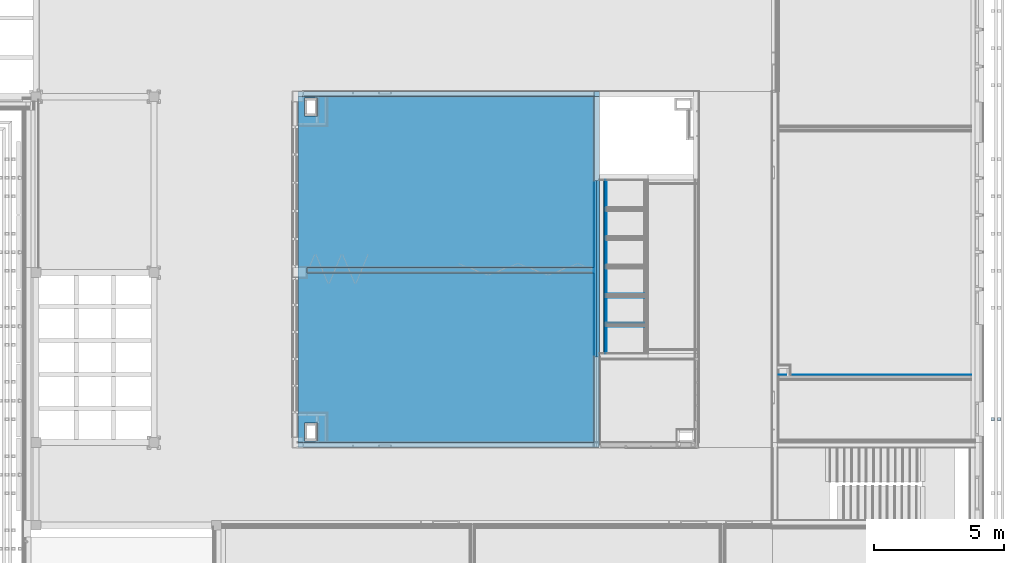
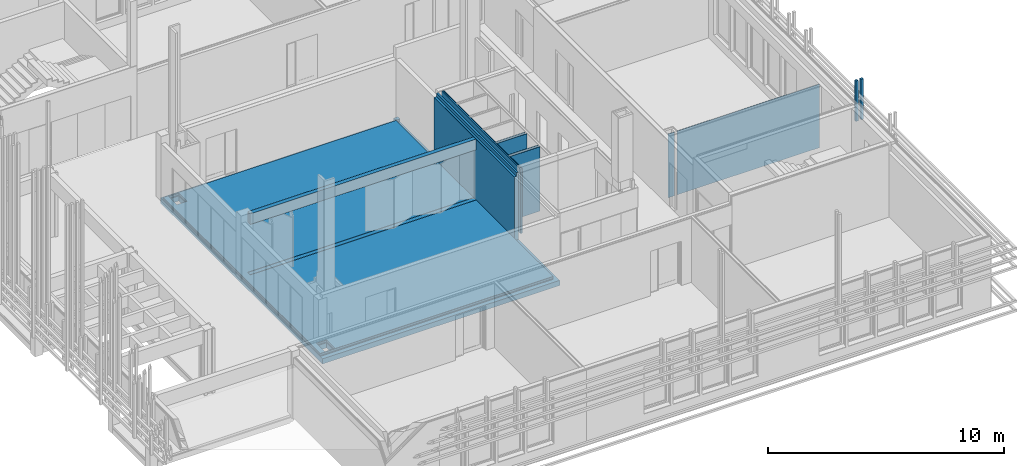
# One storey, part 113 of 139: 17 building element parts, 1 discrete accessory, 1 opening, 7 elements without a shape of their own.
"""IFC2X3 building model written with IfcOpenShell, lengths in millimetres."""

from ifc_helpers import new_model, entity, si_unit, converted_unit, derived_unit, money_unit, direction, frame, origin_with_axes, place, context, subcontext, project, spatial, faceted_brep, material, material_list, type_object, element, aggregate, save


model = new_model("IFC2X3")

# Units and contexts
model_context = context("Model", 3, precision=0.01, world=origin_with_axes(), true_north=direction((0.0, 1.0)))
body_context = subcontext(model_context, "Body", "Model", "MODEL_VIEW")
ifc_project = project(units=[si_unit("LENGTHUNIT", "METRE", prefix="MILLI"), si_unit("AREAUNIT", "SQUARE_METRE"), si_unit("VOLUMEUNIT", "CUBIC_METRE"), converted_unit("PLANEANGLEUNIT", "DEGREE", entity("IfcPlaneAngleMeasure", 0.0174532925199), si_unit("PLANEANGLEUNIT", "RADIAN"), dimensions=[0, 0, 0, 0, 0, 0, 0]), money_unit("EUR"), converted_unit("TIMEUNIT", "Year", entity("IfcTimeMeasure", 31556926.0), si_unit("TIMEUNIT", "SECOND"), dimensions=[0, 0, 1, 0, 0, 0, 0]), si_unit("MASSUNIT", "GRAM", prefix="KILO"), si_unit("THERMODYNAMICTEMPERATUREUNIT", "DEGREE_CELSIUS"), si_unit("LUMINOUSINTENSITYUNIT", "LUMEN"), si_unit("ENERGYUNIT", "JOULE", prefix="MEGA"), derived_unit("THERMALCONDUCTANCEUNIT", [(si_unit("POWERUNIT", "WATT"), 1), (si_unit("LENGTHUNIT", "METRE"), -1), (si_unit("THERMODYNAMICTEMPERATUREUNIT", "KELVIN"), -1)]), derived_unit("SPECIFICHEATCAPACITYUNIT", [(si_unit("ENERGYUNIT", "JOULE"), 1), (si_unit("MASSUNIT", "GRAM", prefix="KILO"), -1), (si_unit("THERMODYNAMICTEMPERATUREUNIT", "KELVIN"), -1)]), derived_unit("MASSDENSITYUNIT", [(si_unit("MASSUNIT", "GRAM", prefix="KILO"), 1), (si_unit("VOLUMEUNIT", "CUBIC_METRE"), -1)])], contexts=[model_context])

# Site, building, storey
site_placement = place(None, origin_with_axes())
site = spatial("IfcSite", under=ifc_project, at=site_placement, Name="Kolde pst 67a", CompositionType="ELEMENT")
building_placement = place(site_placement, origin_with_axes())
building = spatial("IfcBuilding", under=site, at=building_placement, Name="Riigigümnaasium", CompositionType="ELEMENT")
storey_placement = place(building_placement, frame((0.0, 0.0, 4600.0), z_axis=(0.0, 0.0, 1.0), x_axis=(1.0, 0.0, 0.0)))
storey = spatial("IfcBuildingStorey", under=building, at=storey_placement, Name="2. korrus", CompositionType="ELEMENT", Elevation=4600.0)

# Discrete accessory
ifc_material_1 = material(Name="_VÄLISVIIMISTLUS - sõrmjätkatud puitprussid 120x115mm, liitekohad vähemärgatavad, Platowood sõrmjätkatud kuusk või samaväärne; eeltöödeldud tuletõkkevõõbaga, tuletundlikkus B-s1, d0, Woodsafe Exterior WFX™ või samaväärne; kinnitused vastavalt EK osale")
ifc_material_list = material_list([ifc_material_1, ifc_material_1])
discrete_accessory_type = type_object("IfcDiscreteAccessoryType", Name="1+paiksekaitse 3 370 x 115")
discrete_accessory_placement = place(storey_placement, frame((85772.0333434, 11864.9927814, 2150.0), z_axis=(0.0, 0.0, 1.0), x_axis=(-1.0, 0.0, 0.0)))
element("IfcDiscreteAccessory", 1, at=discrete_accessory_placement, inside=storey, type_object=discrete_accessory_type, material=ifc_material_list, Name="Päikesevarjestus", context=body_context, shape_type="Brep", body=[
    faceted_brep([(467.0, 117.5, 0.0), (347.0, 117.5, 0.0), (347.0, 117.5, 2090.0), (467.0, 117.5, 2090.0), (467.0, 2.5, 0.0), (347.0, 2.5, 0.0), (347.0, 2.5, 2090.0), (467.0, 2.5, 2090.0)], [[[0, 1, 2, 3]], [[0, 4, 5, 1]], [[1, 5, 6, 2]], [[3, 2, 6, 7]], [[4, 0, 3, 7]], [[5, 4, 7, 6]]]),
    faceted_brep([(717.0, 117.5, 0.0), (597.0, 117.5, 0.0), (597.0, 117.5, 2090.0), (717.0, 117.5, 2090.0), (717.0, 2.5, 0.0), (597.0, 2.5, 0.0), (597.0, 2.5, 2090.0), (717.0, 2.5, 2090.0)], [[[0, 1, 2, 3]], [[0, 4, 5, 1]], [[1, 5, 6, 2]], [[3, 2, 6, 7]], [[4, 0, 3, 7]], [[5, 4, 7, 6]]]),
])

# Wall, building element parts
wall_type_1 = type_object("IfcWallType", Name="SS-MK-7,5/1_plaaditud 155", PredefinedType="NOTDEFINED")
wall_1_placement = place(storey_placement, frame((70229.9988411, 15524.9999708, -15.0), z_axis=(0.0, 0.0, 1.0), x_axis=(1.0, 0.0, 0.0)))
wall_1 = element("IfcWall", 2, at=wall_1_placement, inside=storey, type_object=wall_type_1, Name="Sisesein")
ifc_material_2 = material(Name="_VIIMISTLUSKIHT - viimistlus vastavalt SA osale")
building_element_part_1_placement = place(wall_1_placement, origin_with_axes())
building_element_part_1 = element("IfcBuildingElementPart", 3, at=building_element_part_1_placement, material=ifc_material_2, Name="_VIIMISTLUSKIHT - viimistlus vastavalt SA osale", context=body_context, shape_type="Brep", body=[
    faceted_brep([(-4.26329052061e-05, 0.0, 3350.0), (1445.00120143, 0.0, 3350.0), (1445.00120143, 0.0, 15.0), (-4.25359161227e-05, 0.0, 15.0), (1445.00120329, -15.0, 3350.0), (-3.80948392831e-05, -15.0, 3350.0), (1445.00120329, -15.0, 15.0), (-1.70572889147e-07, -15.0, 15.0)], [[[0, 1, 2, 3]], [[4, 1, 0, 5]], [[1, 4, 6, 2]], [[3, 2, 6, 7]], [[5, 0, 3, 7]], [[4, 5, 7, 6]]]),
])
building_element_part_2_placement = place(wall_1_placement, origin_with_axes())
building_element_part_2 = element("IfcBuildingElementPart", 4, at=building_element_part_2_placement, material=ifc_material_2, Name="_VIIMISTLUSKIHT - viimistlus vastavalt SA osale", context=body_context, shape_type="Brep", body=[
    faceted_brep([(-3.80868954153e-05, -140.0, 3350.0), (1445.00121879, -140.0, 3350.0), (1445.00121879, -140.0, 15.0), (-1.70544467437e-07, -140.0, 15.0), (1445.00122065, -155.0, 3350.0), (-4.26230570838e-05, -155.0, 3350.0), (1445.00122065, -155.0, 15.0), (-4.25359161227e-05, -155.0, 15.0)], [[[0, 1, 2, 3]], [[4, 1, 0, 5]], [[1, 4, 6, 2]], [[3, 2, 6, 7]], [[5, 0, 3, 7]], [[4, 5, 7, 6]]]),
])
aggregate(wall_1, [building_element_part_1, building_element_part_2])

wall_type_2 = type_object("IfcWallType", Name="SS-MK-66/3_šahti sein+plaat 106", PredefinedType="NOTDEFINED")
wall_2_placement = place(storey_placement, frame((70229.9987986, 21023.785296, 0.0), z_axis=(0.0, 0.0, 1.0), x_axis=(0.0, -1.0, 0.0)))
wall_2 = element("IfcWall", 5, at=wall_2_placement, inside=storey, type_object=wall_type_2, Name="Varisein")
building_element_part_3_placement = place(wall_2_placement, origin_with_axes())
building_element_part_3 = element("IfcBuildingElementPart", 6, at=building_element_part_3_placement, material=ifc_material_2, Name="_VIIMISTLUSKIHT - viimistlus vastavalt SA osale", context=body_context, shape_type="Brep", body=[
    faceted_brep([(5638.78532514, -14.9999995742, 3335.0), (5638.78532514, 0.0, 3335.0), (5638.78532514, 0.0, 0.0), (5638.78532514, -15.0, 0.0), (6679.4199841, -2.1856294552e-08, 3335.0), (6679.4199841, -15.000000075, 3335.0), (6679.4199841, 0.0, 0.0), (6679.4199841, -15.0, 0.0)], [[[0, 1, 2, 3]], [[4, 1, 0, 5]], [[1, 4, 6, 2]], [[7, 3, 2, 6]], [[5, 0, 3, 7]], [[4, 5, 7, 6]]]),
    faceted_brep([(4528.78532514, -14.9999995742, 3335.0), (4528.78532514, 0.0, 3335.0), (4528.78532514, 0.0, 0.0), (4528.78532514, -15.0, 0.0), (5513.78532514, 0.0, 3335.0), (5513.78532514, -14.9999995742, 3335.0), (5513.78532514, 0.0, 0.0), (5513.78532514, -15.0, 0.0)], [[[0, 1, 2, 3]], [[4, 1, 0, 5]], [[1, 4, 6, 2]], [[7, 3, 2, 6]], [[5, 0, 3, 7]], [[4, 5, 7, 6]]]),
    faceted_brep([(3418.78532514, -14.9999995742, 3335.0), (3418.78532514, 0.0, 3335.0), (3418.78532514, 0.0, 0.0), (3418.78532514, -15.0, 0.0), (4403.78532514, 0.0, 3335.0), (4403.78532514, -14.9999995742, 3335.0), (4403.78532514, 0.0, 0.0), (4403.78532514, -15.0, 0.0)], [[[0, 1, 2, 3]], [[4, 1, 0, 5]], [[1, 4, 6, 2]], [[7, 3, 2, 6]], [[5, 0, 3, 7]], [[4, 5, 7, 6]]]),
    faceted_brep([(2308.78532514, -14.9999995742, 3335.0), (2308.78532514, 0.0, 3335.0), (2308.78532514, 0.0, 0.0), (2308.78532514, -15.0, 0.0), (3293.78532514, 0.0, 3335.0), (3293.78532514, -14.9999995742, 3335.0), (3293.78532514, 0.0, 0.0), (3293.78532514, -15.0, 0.0)], [[[0, 1, 2, 3]], [[4, 1, 0, 5]], [[1, 4, 6, 2]], [[7, 3, 2, 6]], [[5, 0, 3, 7]], [[4, 5, 7, 6]]]),
    faceted_brep([(1198.78532514, -14.9999995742, 3335.0), (1198.78532514, 0.0, 3335.0), (1198.78532514, 0.0, 0.0), (1198.78532514, -15.0, 0.0), (2183.78532514, 0.0, 3335.0), (2183.78532514, -14.9999995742, 3335.0), (2183.78532514, 0.0, 0.0), (2183.78532514, -15.0, 0.0)], [[[0, 1, 2, 3]], [[4, 1, 0, 5]], [[1, 4, 6, 2]], [[7, 3, 2, 6]], [[5, 0, 3, 7]], [[4, 5, 7, 6]]]),
    faceted_brep([(15.0000026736, -15.0000017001, 3335.0), (15.0000026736, -4.95333551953e-07, 3335.0), (15.0000026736, 0.0, 0.0), (15.0000026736, -15.0, 0.0), (1073.78532514, 0.0, 3335.0), (1073.78532514, -14.9999995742, 3335.0), (1073.78532514, 0.0, 0.0), (1073.78532514, -15.0, 0.0)], [[[0, 1, 2, 3]], [[4, 1, 0, 5]], [[1, 4, 6, 2]], [[2, 6, 7, 3]], [[5, 0, 3, 7]], [[4, 5, 7, 6]]]),
])
ifc_material_3 = material(Name="_PLAATMATERJAL - kipsplaat veekindel")
building_element_part_4_placement = place(wall_2_placement, origin_with_axes())
building_element_part_4 = element("IfcBuildingElementPart", 7, at=building_element_part_4_placement, material=ifc_material_3, Name="_PLAATMATERJAL - kipsplaat veekindel", context=body_context, shape_type="Brep", body=[
    faceted_brep([(5626.28532514, -27.5, 3335.0), (5626.28532514, -14.9999995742, 3335.0), (5626.28532514, -15.0, 0.0), (5626.28532514, -27.5, 0.0), (6694.4199841, -15.0000000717, 3335.0), (6694.4199841, -27.5, 3335.0), (6694.4199841, -15.0, 0.0), (6694.4199841, -27.5, 0.0)], [[[0, 1, 2, 3]], [[4, 1, 0, 5]], [[1, 4, 6, 2]], [[7, 3, 2, 6]], [[5, 0, 3, 7]], [[4, 5, 7, 6]]]),
    faceted_brep([(4516.28532514, -27.5, 3335.0), (4516.28532514, -14.9999995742, 3335.0), (4516.28532514, -15.0, 0.0), (4516.28532514, -27.5, 0.0), (5526.28532514, -14.9999995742, 3335.0), (5526.28532514, -27.5, 3335.0), (5526.28532514, -15.0, 0.0), (5526.28532514, -27.5, 0.0)], [[[0, 1, 2, 3]], [[4, 1, 0, 5]], [[1, 4, 6, 2]], [[7, 3, 2, 6]], [[5, 0, 3, 7]], [[4, 5, 7, 6]]]),
    faceted_brep([(3406.28532514, -27.5, 3335.0), (3406.28532514, -14.9999995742, 3335.0), (3406.28532514, -15.0, 0.0), (3406.28532514, -27.5, 0.0), (4416.28532514, -14.9999995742, 3335.0), (4416.28532514, -27.5, 3335.0), (4416.28532514, -15.0, 0.0), (4416.28532514, -27.5, 0.0)], [[[0, 1, 2, 3]], [[4, 1, 0, 5]], [[1, 4, 6, 2]], [[7, 3, 2, 6]], [[5, 0, 3, 7]], [[4, 5, 7, 6]]]),
    faceted_brep([(2296.28532514, -27.5, 3335.0), (2296.28532514, -14.9999995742, 3335.0), (2296.28532514, -15.0, 0.0), (2296.28532514, -27.5, 0.0), (3306.28532514, -14.9999995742, 3335.0), (3306.28532514, -27.5, 3335.0), (3306.28532514, -15.0, 0.0), (3306.28532514, -27.5, 0.0)], [[[0, 1, 2, 3]], [[4, 1, 0, 5]], [[1, 4, 6, 2]], [[7, 3, 2, 6]], [[5, 0, 3, 7]], [[4, 5, 7, 6]]]),
    faceted_brep([(1186.28532514, -27.5, 3335.0), (1186.28532514, -14.9999995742, 3335.0), (1186.28532514, -15.0, 0.0), (1186.28532514, -27.5, 0.0), (2196.28532514, -14.9999995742, 3335.0), (2196.28532514, -27.5, 3335.0), (2196.28532514, -15.0, 0.0), (2196.28532514, -27.5, 0.0)], [[[0, 1, 2, 3]], [[4, 1, 0, 5]], [[1, 4, 6, 2]], [[7, 3, 2, 6]], [[5, 0, 3, 7]], [[4, 5, 7, 6]]]),
    faceted_brep([(3.09661629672e-07, -27.5, 3335.0), (3.10343750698e-07, -15.000001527, 3335.0), (2.80431677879e-06, -15.0, 0.0), (2.79814926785e-06, -27.5, 0.0), (1086.28532514, -14.9999995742, 3335.0), (1086.28532514, -27.5, 3335.0), (1086.28532514, -15.0, 0.0), (1086.28532514, -27.5, 0.0)], [[[0, 1, 2, 3]], [[4, 1, 0, 5]], [[1, 4, 6, 2]], [[2, 6, 7, 3]], [[5, 0, 3, 7]], [[4, 5, 7, 6]]]),
])
building_element_part_5_placement = place(wall_2_placement, origin_with_axes())
building_element_part_5 = element("IfcBuildingElementPart", 8, at=building_element_part_5_placement, material=ifc_material_3, Name="_PLAATMATERJAL - kipsplaat veekindel", context=body_context, shape_type="Brep", body=[
    faceted_brep([(5613.78532514, -39.9999993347, 3335.0), (5613.78532514, -27.5, 3335.0), (5613.78532514, -27.5, 0.0), (5613.78532514, -40.0, 0.0), (6694.4199841, -27.5, 3335.0), (6694.4199841, -39.9999999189, 3335.0), (6694.4199841, -27.5, 0.0), (6694.4199841, -40.0, 0.0)], [[[0, 1, 2, 3]], [[4, 1, 0, 5]], [[1, 4, 6, 2]], [[7, 3, 2, 6]], [[5, 0, 3, 7]], [[4, 5, 7, 6]]]),
    faceted_brep([(4503.78532514, -39.9999993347, 3335.0), (4503.78532514, -27.5, 3335.0), (4503.78532514, -27.5, 0.0), (4503.78532514, -40.0, 0.0), (5538.78532514, -27.5, 3335.0), (5538.78532514, -39.9999993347, 3335.0), (5538.78532514, -27.5, 0.0), (5538.78532514, -40.0, 0.0)], [[[0, 1, 2, 3]], [[4, 1, 0, 5]], [[1, 4, 6, 2]], [[7, 3, 2, 6]], [[5, 0, 3, 7]], [[4, 5, 7, 6]]]),
    faceted_brep([(3393.78532514, -39.9999993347, 3335.0), (3393.78532514, -27.5, 3335.0), (3393.78532514, -27.5, 0.0), (3393.78532514, -40.0, 0.0), (4428.78532514, -27.5, 3335.0), (4428.78532514, -39.9999993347, 3335.0), (4428.78532514, -27.5, 0.0), (4428.78532514, -40.0, 0.0)], [[[0, 1, 2, 3]], [[4, 1, 0, 5]], [[1, 4, 6, 2]], [[7, 3, 2, 6]], [[5, 0, 3, 7]], [[4, 5, 7, 6]]]),
    faceted_brep([(2283.78532514, -39.9999993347, 3335.0), (2283.78532514, -27.5, 3335.0), (2283.78532514, -27.5, 0.0), (2283.78532514, -40.0, 0.0), (3318.78532514, -27.5, 3335.0), (3318.78532514, -39.9999993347, 3335.0), (3318.78532514, -27.5, 0.0), (3318.78532514, -40.0, 0.0)], [[[0, 1, 2, 3]], [[4, 1, 0, 5]], [[1, 4, 6, 2]], [[7, 3, 2, 6]], [[5, 0, 3, 7]], [[4, 5, 7, 6]]]),
    faceted_brep([(1173.78532514, -39.9999993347, 3335.0), (1173.78532514, -27.5, 3335.0), (1173.78532514, -27.5, 0.0), (1173.78532514, -40.0, 0.0), (2208.78532514, -27.5, 3335.0), (2208.78532514, -39.9999993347, 3335.0), (2208.78532514, -27.5, 0.0), (2208.78532514, -40.0, 0.0)], [[[0, 1, 2, 3]], [[4, 1, 0, 5]], [[1, 4, 6, 2]], [[7, 3, 2, 6]], [[5, 0, 3, 7]], [[4, 5, 7, 6]]]),
    faceted_brep([(3.08979508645e-07, -39.9999982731, 3335.0), (3.09661629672e-07, -27.5, 3335.0), (2.79814926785e-06, -27.5, 0.0), (2.79198530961e-06, -40.0, 0.0), (1098.78532514, -27.5, 3335.0), (1098.78532514, -39.9999993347, 3335.0), (1098.78532514, -27.5, 0.0), (1098.78532514, -40.0, 0.0)], [[[0, 1, 2, 3]], [[4, 1, 0, 5]], [[1, 4, 6, 2]], [[2, 6, 7, 3]], [[5, 0, 3, 7]], [[4, 5, 7, 6]]]),
])
ifc_material_4 = material(Name="_KARKASS - metallkarkass CW 75/50, mineraalvill karkassi vahel")
building_element_part_6_placement = place(wall_2_placement, origin_with_axes())
building_element_part_6 = element("IfcBuildingElementPart", 9, at=building_element_part_6_placement, material=ifc_material_4, Name="_KARKASS - metallkarkass CW 75/50, mineraalvill karkassi vahel", context=body_context, shape_type="Brep", body=[
    faceted_brep([(2.67445798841e-06, -106.0, 3335.0), (3.08979508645e-07, -39.9999982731, 3335.0), (2.79198530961e-06, -40.0, 0.0), (2.75943179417e-06, -106.0, 0.0), (6694.4199841, -39.9999999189, 3335.0), (6694.4199841, -106.0, 3335.0), (6694.4199841, -40.0, 0.0), (6694.4199841, -106.0, 0.0)], [[[0, 1, 2, 3]], [[4, 1, 0, 5]], [[1, 4, 6, 2]], [[7, 3, 2, 6]], [[5, 0, 3, 7]], [[4, 5, 7, 6]]]),
])
aggregate(wall_2, [building_element_part_3, building_element_part_4, building_element_part_5, building_element_part_6])

# Wall, building element part
wall_type_3 = type_object("IfcWallType", Name="SS-PK-10/8_vill100+dold+vineer-värv 200", PredefinedType="NOTDEFINED")
wall_3_placement = place(storey_placement, frame((84439.9991346, 13509.9534691, -130.0), z_axis=(0.0, 0.0, 1.0), x_axis=(-1.0, -2.82157997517e-07, 0.0)))
wall_3 = element("IfcWall", 10, at=wall_3_placement, inside=storey, type_object=wall_type_3, Name="Sisesein")
building_element_part_7_placement = place(wall_3_placement, origin_with_axes())
building_element_part_7 = element("IfcBuildingElementPart", 11, at=building_element_part_7_placement, material=ifc_material_2, Name="_VIIMISTLUSKIHT - viimistlus vastavalt SA osale", context=body_context, shape_type="Brep", body=[
    faceted_brep([(7124.99115473, 0.0, 3436.9), (159.999806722, 0.0, 3436.9), (159.999806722, 0.0, 130.0), (5509.33589255, 0.0, 130.0), (5664.3358926, 0.0, 130.0), (7124.99115473, 0.0, 130.0), (159.999808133, 5.0, 3436.9), (7124.99115473, 5.0, 3436.9), (159.999808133, 5.0, 130.0), (5509.33576205, 5.0, 130.0), (5664.3357621, 5.0, 130.0), (7124.99115473, 5.0, 130.0)], [[[0, 1, 2, 3, 4, 5]], [[6, 1, 0, 7]], [[1, 6, 8, 2]], [[5, 4, 3, 2, 8, 9, 10, 11]], [[7, 0, 5, 11]], [[6, 7, 11, 10, 9, 8]]]),
    faceted_brep([(7575.20456286, 0.0, 3436.9), (7249.99115473, 0.0, 3436.9), (7249.99115473, 0.0, 130.0), (7575.20456286, 0.0, 130.0), (7249.99115473, 5.0, 3436.9), (7575.20456286, 5.0, 3436.9), (7249.99115473, 5.0, 130.0), (7575.20456286, 5.0, 130.0)], [[[0, 1, 2, 3]], [[4, 1, 0, 5]], [[1, 4, 6, 2]], [[3, 2, 6, 7]], [[5, 0, 3, 7]], [[4, 5, 7, 6]]]),
])
aggregate(wall_3, [building_element_part_7])

# Wall, opening, building element part
wall_type_4 = type_object("IfcWallType", Name="SS-RB-20/1_+2 krohv 55 dB 220", PredefinedType="NOTDEFINED")
wall_4_placement = place(storey_placement, frame((58679.9488577, 17429.9867175, -150.0), z_axis=(0.0, 0.0, 1.0), x_axis=(0.999999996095, -8.83722856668e-05, 0.0)))
wall_4 = element("IfcWall", 12, at=wall_4_placement, inside=storey, type_object=wall_type_4, Name="Sisesein")
opening_placement = place(wall_4_placement, frame((5535.03319041, 0.0, 150.0), z_axis=(0.0, 0.0, 1.0), x_axis=(1.0, 0.0, 0.0)))
element("IfcOpeningElement", 13, at=opening_placement, cuts=wall_4, Name="Siirdesein", context=body_context, shape_type="Brep", body=[
    faceted_brep([(5535.03319041, -220.0, 2600.0), (5535.03319041, -220.0, 0.0), (5535.03319041, 170.0, 0.0), (5535.03319041, 170.0, 2600.0), (-5535.03319041, -220.0, 2600.0), (-5535.03319041, -220.0, 0.0), (-5535.03319041, 170.0, 0.0), (-5535.03319041, 170.0, 2600.0)], [[[0, 1, 2, 3]], [[0, 4, 5, 1]], [[1, 5, 6, 2]], [[3, 2, 6, 7]], [[4, 0, 3, 7]], [[5, 4, 7, 6]]]),
    faceted_brep([(5535.03319041, 440.0, 0.0), (5535.03319041, 440.0, 2600.0), (5535.03319041, 170.0, 2600.0), (5535.03319041, 170.0, 0.0), (-5535.03319041, 440.0, 0.0), (-5535.03319041, 440.0, 2600.0), (-5535.03319041, 170.0, 2600.0), (-5535.03319041, 170.0, 0.0)], [[[0, 1, 2, 3]], [[0, 4, 5, 1]], [[1, 5, 6, 2]], [[3, 2, 6, 7]], [[4, 0, 3, 7]], [[5, 4, 7, 6]]]),
])
ifc_material_5 = material(Name="_KANDETARIND - monteeritav raudbetoon vastavalt EK osale")
building_element_part_8_placement = place(wall_4_placement, origin_with_axes())
building_element_part_8 = element("IfcBuildingElementPart", 14, at=building_element_part_8_placement, material=ifc_material_5, Name="_KANDETARIND - monteeritav raudbetoon vastavalt EK osale", context=body_context, shape_type="Brep", body=[
    faceted_brep([(0.0, 170.0, 150.0), (0.0, 10.0, 150.0), (11070.0663808, 10.0, 150.0), (11070.0663808, 170.0, 150.0), (11070.0663808, 210.0, 150.0), (0.0, 210.0, 150.0), (0.0, 210.0, 0.0), (0.0, 10.0, 0.0), (11070.0663808, 10.0, 0.0), (11070.0663808, 210.0, 0.0)], [[[0, 1, 2, 3, 4, 5]], [[1, 0, 5, 6, 7]], [[2, 1, 7, 8]], [[3, 2, 8, 9, 4]], [[4, 9, 6, 5]], [[7, 6, 9, 8]]]),
    faceted_brep([(11070.0663808, 10.0, 2750.0), (11070.0663808, 170.0, 2750.0), (11070.0663808, 210.0, 2750.0), (11070.0663808, 210.0, 3300.0), (11070.0663808, 10.0, 3300.0), (0.0, 10.0, 2750.0), (0.0, 170.0, 2750.0), (0.0, 210.0, 2750.0), (0.0, 210.0, 3300.0), (0.0, 10.0, 3300.0)], [[[0, 1, 2, 3, 4]], [[1, 0, 5, 6, 7, 2]], [[7, 8, 3, 2]], [[8, 9, 4, 3]], [[5, 0, 4, 9]], [[6, 5, 9, 8, 7]]]),
])
aggregate(wall_4, [building_element_part_8])

# Wall, building element parts
wall_5_placement = place(storey_placement, frame((70229.9987035, 16634.9999708, -15.0), z_axis=(0.0, 0.0, 1.0), x_axis=(1.0, 0.0, 0.0)))
wall_5 = element("IfcWall", 15, at=wall_5_placement, inside=storey, type_object=wall_type_1, Name="Sisesein")
building_element_part_9_placement = place(wall_5_placement, origin_with_axes())
building_element_part_9 = element("IfcBuildingElementPart", 16, at=building_element_part_9_placement, material=ifc_material_2, Name="_VIIMISTLUSKIHT - viimistlus vastavalt SA osale", context=body_context, shape_type="Brep", body=[
    faceted_brep([(9.49337959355e-05, 0.0, 3350.0), (1445.00120143, 0.0, 3350.0), (1445.00120143, 0.0, 15.0), (9.5101398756e-05, 0.0, 15.0), (1445.00120329, -15.0, 3350.0), (8.47905283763e-05, -15.0, 3350.0), (1445.00120329, -15.0, 15.0), (3.79657194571e-07, -15.0, 15.0)], [[[0, 1, 2, 3]], [[4, 1, 0, 5]], [[1, 4, 6, 2]], [[3, 2, 6, 7]], [[5, 0, 3, 7]], [[4, 5, 7, 6]]]),
])
building_element_part_10_placement = place(wall_5_placement, origin_with_axes())
building_element_part_10 = element("IfcBuildingElementPart", 17, at=building_element_part_10_placement, material=ifc_material_2, Name="_VIIMISTLUSKIHT - viimistlus vastavalt SA osale", context=body_context, shape_type="Brep", body=[
    faceted_brep([(8.47984864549e-05, -140.0, 3350.0), (1445.00121879, -140.0, 3350.0), (1445.00121879, -140.0, 15.0), (3.79699827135e-07, -140.0, 15.0), (1445.00122065, -155.0, 3350.0), (9.49436582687e-05, -155.0, 3350.0), (1445.00122065, -155.0, 15.0), (9.5101398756e-05, -155.0, 15.0)], [[[0, 1, 2, 3]], [[4, 1, 0, 5]], [[1, 4, 6, 2]], [[3, 2, 6, 7]], [[5, 0, 3, 7]], [[4, 5, 7, 6]]]),
])
aggregate(wall_5, [building_element_part_9, building_element_part_10])

wall_type_5 = type_object("IfcWallType", Name="SS-RB-20/6_+1 krohv 210", PredefinedType="NOTDEFINED")
wall_6_placement = place(storey_placement, frame((69949.999213, 14199.9999727, -150.0), z_axis=(0.0, 0.0, 1.0), x_axis=(0.0, 1.0, 0.0)))
wall_6 = element("IfcWall", 18, at=wall_6_placement, inside=storey, type_object=wall_type_5, Name="Sisesein")
building_element_part_11_placement = place(wall_6_placement, origin_with_axes())
building_element_part_11 = element("IfcBuildingElementPart", 19, at=building_element_part_11_placement, material=ifc_material_2, Name="_VIIMISTLUSKIHT - viimistlus vastavalt SA osale", context=body_context, shape_type="Brep", body=[
    faceted_brep([(6799.99998075, 210.0, 3300.0), (6799.99998075, 200.0, 3300.0), (6799.99998075, 200.0, 0.0), (6799.99998075, 210.0, 0.0), (0.0, 200.0, 3300.0), (0.0, 210.0, 3300.0), (0.0, 200.0, 0.0), (0.0, 210.0, 0.0)], [[[0, 1, 2, 3]], [[4, 1, 0, 5]], [[1, 4, 6, 2]], [[7, 3, 2, 6]], [[5, 0, 3, 7]], [[4, 5, 7, 6]]]),
])
building_element_part_12_placement = place(wall_6_placement, origin_with_axes())
building_element_part_12 = element("IfcBuildingElementPart", 20, at=building_element_part_12_placement, material=ifc_material_5, Name="_KANDETARIND - monteeritav raudbetoon vastavalt EK osale", context=body_context, shape_type="Brep", body=[
    faceted_brep([(6799.99998075, 200.0, 3300.0), (6799.99998075, 100.000080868, 3300.0), (6799.99998075, 100.000080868, 3485.0), (6799.99998075, 0.0, 3485.0), (6799.99998075, 0.0, 0.0), (6799.99998075, 200.0, 0.0), (0.0, 200.0, 3300.0), (0.0, 100.000080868, 3300.0), (0.0, 100.000080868, 3485.0), (0.0, 0.0, 3485.0), (0.0, 0.0, 0.0), (0.0, 200.0, 0.0)], [[[0, 1, 2, 3, 4, 5]], [[1, 0, 6, 7]], [[8, 2, 1, 7]], [[2, 8, 9, 3]], [[10, 4, 3, 9]], [[11, 5, 4, 10]], [[6, 0, 5, 11]], [[7, 6, 11, 10, 9, 8]]]),
])
aggregate(wall_6, [building_element_part_11, building_element_part_12])

# Slab, building element parts
slab_type = type_object("IfcSlabType", Name="VL-RB-26/2_parkett/plaat 415", PredefinedType="NOTDEFINED")
slab_placement = place(storey_placement, frame((58329.94894, 10899.9940331, 0.0), z_axis=(0.0, 0.0, 1.0), x_axis=(1.0, 0.0, 0.0)))
slab = element("IfcSlab", 21, at=slab_placement, inside=storey, type_object=slab_type, Name="VAHELAGI", PredefinedType="NOTDEFINED")
building_element_part_13_placement = place(slab_placement, origin_with_axes())
building_element_part_13 = element("IfcBuildingElementPart", 22, at=building_element_part_13_placement, material=ifc_material_2, Name="_VIIMISTLUSKIHT - viimistlus vastavalt SA osale", context=body_context, shape_type="Brep", body=[
    faceted_brep([(11410.0502731, 9.96790759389, 0.0), (11410.0502731, 3300.00593959, 0.0), (11410.0502731, 6529.01528247, 0.0), (349.999917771, 6529.9926844, 0.0), (350.019359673, 6749.99268354, 0.0), (11410.0502731, 6749.01528333, 0.0), (11410.0503483, 13330.0059396, 0.0), (9.99993677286, 13330.0059396, 0.0), (9.99993677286, 9.96790759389, 0.0), (249.999936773, 12590.0051893, 0.0), (249.999936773, 13290.0059396, 0.0), (750.000691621, 13290.0059396, 0.0), (750.000691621, 12590.0051893, 0.0), (250.016481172, 49.9679121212, 0.0), (250.016481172, 749.968662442, 0.0), (750.01723602, 749.968662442, 0.0), (750.01723602, 49.9679121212, 0.0), (11410.0502731, 9.96790759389, -15.0), (11410.0502731, 3300.00593959, -15.0), (11410.0502731, 6529.01528247, -15.0), (349.999917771, 6529.9926844, -15.0), (350.019359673, 6749.99268354, -15.0), (11410.0502731, 6749.01528333, -15.0), (11410.0503483, 13330.0059396, -15.0), (9.99993677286, 13330.0059396, -15.0), (9.99993677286, 9.96790759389, -15.0), (249.999936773, 12590.0051893, -15.0), (249.999936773, 13290.0059396, -15.0), (750.000691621, 13290.0059396, -15.0), (750.000691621, 12590.0051893, -15.0), (250.016481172, 49.9679121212, -15.0), (250.016481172, 749.968662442, -15.0), (750.01723602, 749.968662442, -15.0), (750.01723602, 49.9679121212, -15.0)], [[[0, 1, 2, 3, 4, 5, 6, 7, 8], [9, 10, 11, 12], [13, 14, 15, 16]], [[1, 0, 17, 18, 19, 2]], [[3, 2, 19, 20]], [[3, 20, 21, 4]], [[21, 22, 5, 4]], [[6, 5, 22, 23]], [[6, 23, 24, 7]], [[8, 7, 24, 25]], [[17, 0, 8, 25]], [[10, 9, 26, 27]], [[11, 10, 27, 28]], [[12, 11, 28, 29]], [[9, 12, 29, 26]], [[14, 13, 30, 31]], [[15, 14, 31, 32]], [[16, 15, 32, 33]], [[13, 16, 33, 30]], [[18, 17, 25, 24, 23, 22, 21, 20, 19], [26, 29, 28, 27], [30, 33, 32, 31]]]),
    faceted_brep([(11620.0503483, 13340.0059396, 0.0), (11620.0503483, 13540.0061448, 0.0), (11415.0504236, 13540.0059396, 0.0), (11415.0504236, 13340.0059396, 0.0), (11620.0503483, 13340.0059396, -15.0), (11620.0503483, 13540.0061448, -15.0), (11415.0504236, 13540.0059396, -15.0), (11415.0504236, 13340.0059396, -15.0)], [[[0, 1, 2, 3]], [[0, 4, 5, 1]], [[2, 1, 5, 6]], [[7, 3, 2, 6]], [[4, 0, 3, 7]], [[4, 7, 6, 5]]]),
])
ifc_material_6 = material(Name="_PEALEVALUKIHT - raudbetoonplaat vastavalt EK osale, vajadusel põrandküte")
building_element_part_14_placement = place(slab_placement, origin_with_axes())
building_element_part_14 = element("IfcBuildingElementPart", 23, at=building_element_part_14_placement, material=ifc_material_6, Name="_PEALEVALUKIHT - raudbetoonplaat vastavalt EK osale, vajadusel põrandküte", context=body_context, shape_type="Brep", body=[
    faceted_brep([(11410.0502731, 9.96790759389, -15.0), (11410.0502731, 3300.00593959, -15.0), (11410.0502731, 6529.01528247, -15.0), (349.999917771, 6529.9926844, -15.0), (350.019359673, 6749.99268354, -15.0), (11410.0502731, 6749.01528333, -15.0), (11410.0503483, 13330.0059396, -15.0), (-6.32271408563e-05, 13330.0059396, -15.0), (-6.32271408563e-05, 9.96790759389, -15.0), (249.999936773, 12590.0051893, -15.0), (249.999936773, 13290.0059396, -15.0), (750.000691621, 13290.0059396, -15.0), (750.000691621, 12590.0051893, -15.0), (250.016481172, 49.9679121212, -15.0), (250.016481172, 749.968662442, -15.0), (750.01723602, 749.968662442, -15.0), (750.01723602, 49.9679121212, -15.0), (11410.0502731, 9.96790759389, -100.0), (11410.0502731, 3300.00593959, -100.0), (11410.0502731, 6529.01528247, -100.0), (349.999917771, 6529.9926844, -100.0), (350.019359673, 6749.99268354, -100.0), (11410.0502731, 6749.01528333, -100.0), (11410.0503483, 13330.0059396, -100.0), (-6.32271408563e-05, 13330.0059396, -100.0), (-6.32271408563e-05, 9.96790759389, -100.0), (249.999936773, 12590.0051893, -100.0), (249.999936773, 13290.0059396, -100.0), (750.000691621, 13290.0059396, -100.0), (750.000691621, 12590.0051893, -100.0), (250.016481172, 49.9679121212, -100.0), (250.016481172, 749.968662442, -100.0), (750.01723602, 749.968662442, -100.0), (750.01723602, 49.9679121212, -100.0)], [[[0, 1, 2, 3, 4, 5, 6, 7, 8], [9, 10, 11, 12], [13, 14, 15, 16]], [[1, 0, 17, 18, 19, 2]], [[3, 2, 19, 20]], [[3, 20, 21, 4]], [[21, 22, 5, 4]], [[6, 5, 22, 23]], [[23, 24, 7, 6]], [[24, 25, 8, 7]], [[17, 0, 8, 25]], [[10, 9, 26, 27]], [[11, 10, 27, 28]], [[12, 11, 28, 29]], [[9, 12, 29, 26]], [[14, 13, 30, 31]], [[15, 14, 31, 32]], [[16, 15, 32, 33]], [[13, 16, 33, 30]], [[18, 17, 25, 24, 23, 22, 21, 20, 19], [26, 29, 28, 27], [30, 33, 32, 31]]]),
    faceted_brep([(11620.0503483, 13340.0059396, -15.0), (11620.0503483, 13540.0061448, -15.0), (11415.0504236, 13540.0059396, -15.0), (11415.0504236, 13340.0059396, -15.0), (11620.0503483, 13340.0059396, -100.0), (11620.0503483, 13540.0061448, -100.0), (11415.0504236, 13540.0059396, -100.0), (11415.0504236, 13340.0059396, -100.0)], [[[0, 1, 2, 3]], [[0, 4, 5, 1]], [[2, 1, 5, 6]], [[7, 3, 2, 6]], [[4, 0, 3, 7]], [[4, 7, 6, 5]]]),
])
ifc_material_7 = material(Name="_ISOLATSIOON - löögimüraisolatsioon, mineraalvill, koormustaluvus min 20 kPa, dünaamiline jäikus 16 MN/m³, ISOVER FLO või samaväärne")
building_element_part_15_placement = place(slab_placement, origin_with_axes())
building_element_part_15 = element("IfcBuildingElementPart", 24, at=building_element_part_15_placement, material=ifc_material_7, Name="_ISOLATSIOON - löögimüraisolatsioon, mineraalvill, koormustaluvus min 20 kPa, dünaamiline jäikus 16 MN/m³, ISOVER FLO või samaväärne", context=body_context, shape_type="Brep", body=[
    faceted_brep([(11410.0502731, 9.96790759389, -100.0), (11410.0502731, 3300.00593959, -100.0), (11410.0502731, 6529.01528247, -100.0), (349.999917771, 6529.9926844, -100.0), (350.019359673, 6749.99268354, -100.0), (11410.0502731, 6749.01528333, -100.0), (11410.0503483, 13330.0059396, -100.0), (-6.32271408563e-05, 13330.0059396, -100.0), (-6.32271408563e-05, 9.96790759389, -100.0), (249.999936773, 13290.0059396, -100.0), (750.000691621, 13290.0059396, -100.0), (750.000691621, 12590.0051893, -100.0), (249.999936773, 12590.0051893, -100.0), (250.016481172, 749.968662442, -100.0), (750.01723602, 749.968662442, -100.0), (750.01723602, 49.9679121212, -100.0), (250.016481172, 49.9679121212, -100.0), (11410.0502731, 9.96790759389, -130.0), (11410.0502731, 3300.00593959, -130.0), (11410.0502731, 6529.01528247, -130.0), (349.999917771, 6529.9926844, -130.0), (350.019359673, 6749.99268354, -130.0), (11410.0502731, 6749.01528333, -130.0), (11410.0503483, 13330.0059396, -130.0), (-6.32271408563e-05, 13330.0059396, -130.0), (-6.32271408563e-05, 9.96790759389, -130.0), (249.999936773, 13290.0059396, -130.0), (750.000691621, 13290.0059396, -130.0), (750.000691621, 12590.0051893, -130.0), (249.999936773, 12590.0051893, -130.0), (250.016481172, 749.968662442, -130.0), (750.01723602, 749.968662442, -130.0), (750.01723602, 49.9679121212, -130.0), (250.016481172, 49.9679121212, -130.0)], [[[0, 1, 2, 3, 4, 5, 6, 7, 8], [9, 10, 11, 12], [13, 14, 15, 16]], [[1, 0, 17, 18, 19, 2]], [[3, 2, 19, 20]], [[20, 21, 4, 3]], [[21, 22, 5, 4]], [[6, 5, 22, 23]], [[24, 7, 6, 23]], [[25, 8, 7, 24]], [[17, 0, 8, 25]], [[9, 26, 27, 10]], [[10, 27, 28, 11]], [[11, 28, 29, 12]], [[12, 29, 26, 9]], [[13, 30, 31, 14]], [[14, 31, 32, 15]], [[15, 32, 33, 16]], [[16, 33, 30, 13]], [[18, 17, 25, 24, 23, 22, 21, 20, 19], [28, 27, 26, 29], [32, 31, 30, 33]]]),
    faceted_brep([(11620.0503483, 13340.0059396, -100.0), (11620.0503483, 13540.0061448, -100.0), (11415.0504236, 13540.0059396, -100.0), (11415.0504236, 13340.0059396, -100.0), (11620.0503483, 13340.0059396, -130.0), (11620.0503483, 13540.0061448, -130.0), (11415.0504236, 13540.0059396, -130.0), (11415.0504236, 13340.0059396, -130.0)], [[[0, 1, 2, 3]], [[0, 4, 5, 1]], [[2, 1, 5, 6]], [[7, 3, 2, 6]], [[4, 0, 3, 7]], [[4, 7, 6, 5]]]),
])
ifc_material_8 = material(Name="_SOOJUSTUS - vahtpolüstüreenplaadid EPS 80, survetugevus min 80kPa, soojuserijuhtivus λD<0,038 W/(mK)")
building_element_part_16_placement = place(slab_placement, origin_with_axes())
building_element_part_16 = element("IfcBuildingElementPart", 25, at=building_element_part_16_placement, material=ifc_material_8, Name="_SOOJUSTUS - vahtpolüstüreenplaadid EPS 80, survetugevus min 80kPa, soojuserijuhtivus λD<0,038 W/(mK)", context=body_context, shape_type="Brep", body=[
    faceted_brep([(11410.0502731, 9.96790759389, -130.0), (11410.0502731, 3300.00593959, -130.0), (11410.0502731, 6529.01528247, -130.0), (349.999917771, 6529.9926844, -130.0), (350.019359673, 6749.99268354, -130.0), (11410.0502731, 6749.01528333, -130.0), (11410.0503483, 13340.0059396, -130.0), (11620.0503483, 13340.0059396, -130.0), (11620.0503483, 13540.0061448, -130.0), (0.0, 13540.0061448, -130.0), (-6.32271408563e-05, 9.96790759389, -130.0), (750.000691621, 13290.0059396, -130.0), (750.000691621, 12590.0051893, -130.0), (249.999936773, 12590.0051893, -130.0), (249.999936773, 13290.0059396, -130.0), (750.01723602, 749.968662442, -130.0), (750.01723602, 49.9679121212, -130.0), (250.016481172, 49.9679121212, -130.0), (250.016481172, 749.968662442, -130.0), (11410.0502731, 9.96790759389, -150.0), (11410.0502731, 3300.00593959, -150.0), (11410.0502731, 6529.01528247, -150.0), (349.999917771, 6529.9926844, -150.0), (350.019359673, 6749.99268354, -150.0), (11410.0502731, 6749.01528333, -150.0), (11410.0503483, 13340.0059396, -150.0), (11620.0503483, 13340.0059396, -150.0), (11620.0503483, 13540.0061448, -150.0), (0.0, 13540.0061448, -150.0), (-6.32271408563e-05, 9.96790759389, -150.0), (750.000691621, 13290.0059396, -150.0), (750.000691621, 12590.0051893, -150.0), (249.999936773, 12590.0051893, -150.0), (249.999936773, 13290.0059396, -150.0), (750.01723602, 749.968662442, -150.0), (750.01723602, 49.9679121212, -150.0), (250.016481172, 49.9679121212, -150.0), (250.016481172, 749.968662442, -150.0)], [[[0, 1, 2, 3, 4, 5, 6, 7, 8, 9, 10], [11, 12, 13, 14], [15, 16, 17, 18]], [[1, 0, 19, 20, 21, 2]], [[3, 2, 21, 22]], [[22, 23, 4, 3]], [[23, 24, 5, 4]], [[6, 5, 24, 25]], [[6, 25, 26, 7]], [[27, 8, 7, 26]], [[9, 8, 27, 28]], [[29, 10, 9, 28]], [[19, 0, 10, 29]], [[30, 31, 12, 11]], [[31, 32, 13, 12]], [[32, 33, 14, 13]], [[33, 30, 11, 14]], [[34, 35, 16, 15]], [[35, 36, 17, 16]], [[36, 37, 18, 17]], [[37, 34, 15, 18]], [[20, 19, 29, 28, 27, 26, 25, 24, 23, 22, 21], [30, 33, 32, 31], [34, 37, 36, 35]]]),
])
building_element_part_17_placement = place(slab_placement, origin_with_axes())
building_element_part_17 = element("IfcBuildingElementPart", 26, at=building_element_part_17_placement, material=ifc_material_5, Name="_KANDETARIND - monteeritav raudbetoon vastavalt EK osale", context=body_context, shape_type="Brep", body=[
    faceted_brep([(0.0, 13540.0061448, -150.0), (11620.0503483, 13540.0061448, -150.0), (11620.0503483, 13540.0061448, -415.0), (9110.93879907, 13540.0060026, -415.0), (9110.93879907, 13540.0060026, -380.0), (5799.58792916, 13540.0060026, -380.0), (5799.58792916, 13540.0060026, -415.0), (0.0, 13540.0061448, -415.0), (11620.0503483, -200.032092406, -150.0), (-0.000614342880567, -200.032092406, -150.0), (750.000691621, 13290.0059396, -150.0), (750.000691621, 12590.0051893, -150.0), (249.999936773, 12590.0051893, -150.0), (249.999936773, 13290.0059396, -150.0), (750.01723602, 749.968662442, -150.0), (750.01723602, 49.9679121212, -150.0), (250.016481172, 49.9679121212, -150.0), (250.016481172, 749.968662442, -150.0), (11620.0503483, -200.032092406, -415.0), (5799.58792916, 13330.0060026, -415.0), (9310.93879907, 13330.0060026, -415.0), (9310.93879907, 13340.0060026, -415.0), (9110.93879907, 13340.0060026, -415.0), (-0.000614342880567, -200.032092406, -415.0), (750.000691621, 13290.0059396, -415.0), (249.999936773, 13290.0059396, -415.0), (249.999936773, 12590.0051893, -415.0), (750.000691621, 12590.0051893, -415.0), (750.01723602, 749.968662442, -415.0), (250.016481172, 749.968662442, -415.0), (250.016481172, 49.9679121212, -415.0), (750.01723602, 49.9679121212, -415.0), (9110.93879907, 13340.0060026, -380.0), (9310.93879907, 13340.0060026, -380.0), (9310.93879907, 13330.0060026, -380.0), (5799.58792916, 13330.0060026, -380.0)], [[[0, 1, 2, 3, 4, 5, 6, 7]], [[8, 1, 0, 9], [10, 11, 12, 13], [14, 15, 16, 17]], [[2, 1, 8, 18]], [[7, 6, 19, 20, 21, 22, 3, 2, 18, 23], [24, 25, 26, 27], [28, 29, 30, 31]], [[32, 4, 3, 22]], [[4, 32, 33, 34, 35, 5]], [[19, 6, 5, 35]], [[23, 9, 0, 7]], [[18, 8, 9, 23]], [[24, 27, 11, 10]], [[27, 26, 12, 11]], [[26, 25, 13, 12]], [[25, 24, 10, 13]], [[28, 31, 15, 14]], [[31, 30, 16, 15]], [[30, 29, 17, 16]], [[29, 28, 14, 17]], [[34, 20, 19, 35]], [[33, 21, 20, 34]], [[33, 32, 22, 21]]]),
])
aggregate(slab, [building_element_part_13, building_element_part_14, building_element_part_15, building_element_part_16, building_element_part_17])

save(model, "model.ifc")
